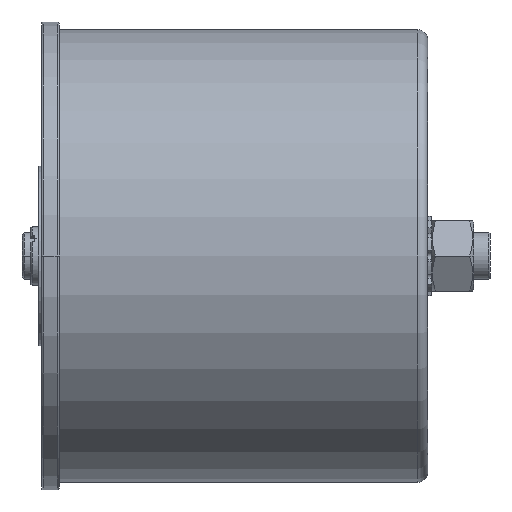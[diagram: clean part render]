
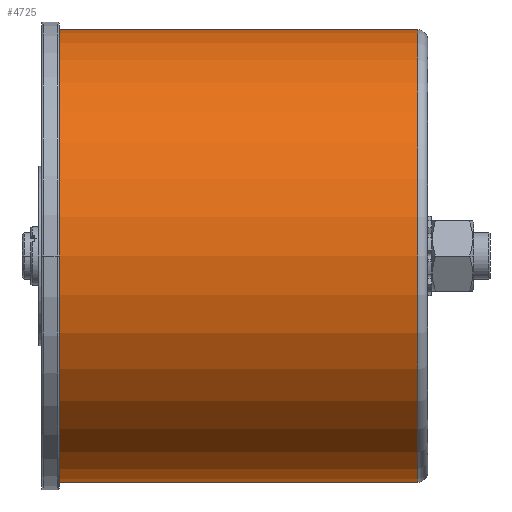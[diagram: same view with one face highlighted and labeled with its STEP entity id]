
A CAD part, left-side view. The second image highlights one B-rep face of the part: STEP entity #4725.
In plain terms, the highlighted cylindrical face has radius 58 mm (diameter 116 mm), a partial arc.
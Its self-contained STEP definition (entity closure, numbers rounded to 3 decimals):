
#418 = VERTEX_POINT ( 'NONE', #2510 ) ;
#997 = DIRECTION ( 'NONE',  ( 0., -1., 0. ) ) ;
#1907 = CARTESIAN_POINT ( 'NONE',  ( 0., -97.4, 0. ) ) ;
#2197 = DIRECTION ( 'NONE',  ( 0., -1., 0. ) ) ;
#2347 = ORIENTED_EDGE ( 'NONE', *, *, #11919, .T. ) ;
#2384 = VERTEX_POINT ( 'NONE', #4952 ) ;
#2510 = CARTESIAN_POINT ( 'NONE',  ( 0., -94.9, -58. ) ) ;
#2830 = CARTESIAN_POINT ( 'NONE',  ( 0., -94.9, 58. ) ) ;
#2917 = DIRECTION ( 'NONE',  ( 0., 0., -1. ) ) ;
#3146 = VERTEX_POINT ( 'NONE', #2830 ) ;
#3551 = DIRECTION ( 'NONE',  ( 0., -1., 0. ) ) ;
#3558 = DIRECTION ( 'NONE',  ( 0., -1., 0. ) ) ;
#3576 = LINE ( 'NONE', #4616, #6265 ) ;
#4616 = CARTESIAN_POINT ( 'NONE',  ( 0., -97.4, -58. ) ) ;
#4725 = ADVANCED_FACE ( 'NONE', ( #11404 ), #9280, .T. ) ;
#4952 = CARTESIAN_POINT ( 'NONE',  ( 0., -0.6, 58. ) ) ;
#5676 = DIRECTION ( 'NONE',  ( 0., 1., 0. ) ) ;
#5840 = VECTOR ( 'NONE', #2197, 1000. ) ;
#6265 = VECTOR ( 'NONE', #3558, 1000. ) ;
#6432 = ORIENTED_EDGE ( 'NONE', *, *, #10361, .T. ) ;
#6537 = CARTESIAN_POINT ( 'NONE',  ( 0., -94.9, 0. ) ) ;
#7873 = CARTESIAN_POINT ( 'NONE',  ( 0., -97.4, 58. ) ) ;
#8120 = ORIENTED_EDGE ( 'NONE', *, *, #9369, .T. ) ;
#8395 = LINE ( 'NONE', #7873, #5840 ) ;
#8627 = ORIENTED_EDGE ( 'NONE', *, *, #8662, .F. ) ;
#8662 = EDGE_CURVE ( 'NONE', #2384, #3146, #8395, .T. ) ;
#9115 = CARTESIAN_POINT ( 'NONE',  ( 0., -0.6, 0. ) ) ;
#9120 = CARTESIAN_POINT ( 'NONE',  ( 0., -0.6, -58. ) ) ;
#9223 = CIRCLE ( 'NONE', #12298, 58. ) ;
#9280 = CYLINDRICAL_SURFACE ( 'NONE', #10534, 58. ) ;
#9369 = EDGE_CURVE ( 'NONE', #9874, #418, #3576, .T. ) ;
#9433 = DIRECTION ( 'NONE',  ( 0., 0., -1. ) ) ;
#9492 = EDGE_LOOP ( 'NONE', ( #8627, #2347, #8120, #6432 ) ) ;
#9874 = VERTEX_POINT ( 'NONE', #9120 ) ;
#10361 = EDGE_CURVE ( 'NONE', #418, #3146, #11513, .T. ) ;
#10534 = AXIS2_PLACEMENT_3D ( 'NONE', #1907, #997, #2917 ) ;
#10977 = AXIS2_PLACEMENT_3D ( 'NONE', #6537, #5676, #9433 ) ;
#11404 = FACE_OUTER_BOUND ( 'NONE', #9492, .T. ) ;
#11513 = CIRCLE ( 'NONE', #10977, 58. ) ;
#11919 = EDGE_CURVE ( 'NONE', #2384, #9874, #9223, .T. ) ;
#11981 = DIRECTION ( 'NONE',  ( 0., 0., -1. ) ) ;
#12298 = AXIS2_PLACEMENT_3D ( 'NONE', #9115, #3551, #11981 ) ;
